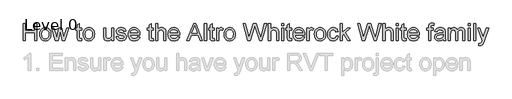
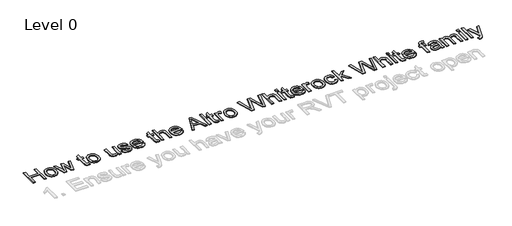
# One storey, part 4 of 6: 1 proxy.
"""IFC4 building model written with IfcOpenShell, lengths in millimetres."""

from ifc_helpers import new_model, si_unit, origin, origin_with_axes, place, context, project, spatial, polyline, outline, extrude, element, save

model = new_model("IFC4")

# Units and contexts
model_context = context("Model", 3, world=origin())
ifc_project = project(units=[si_unit("LENGTHUNIT", "METRE", prefix="MILLI")], contexts=[model_context])

# Site, building, storey
site = spatial("IfcSite", under=ifc_project)
building = spatial("IfcBuilding", under=site)
storey = spatial("IfcBuildingStorey", under=building, Name="Level 0", Elevation=0.0)

# Proxy
placement = place(None, origin())
element("IfcBuildingElementProxy", 1, Name="300mm Arial", ObjectType="300mm Arial", at=placement, inside=storey, context=model_context, shape_type="SweptSolid", body=[
    extrude(outline(polyline([(-63543.1557309, 86050.3631162), (-63543.1557309, 86735.9388738), (-63457.4587612, 86735.9388738), (-63457.4587612, 86457.4237223), (-63093.24664, 86457.4237223), (-63093.24664, 86735.9388738), (-63007.5496703, 86735.9388738), (-63007.5496703, 86050.3631162), (-63093.24664, 86050.3631162), (-63093.24664, 86371.7267526), (-63457.4587612, 86371.7267526), (-63457.4587612, 86050.3631162), (-63543.1557309, 86050.3631162)])), origin_with_axes(), (0.0, 0.0, 1.0), 25.0),
    extrude(outline(polyline([(-62889.716337, 86302.0979647), (-62885.0820892, 86367.3017259), (-62871.1793459, 86423.488057), (-62848.0081072, 86470.6569579), (-62832.946802, 86490.8598721), (-62815.5683729, 86508.8084287), (-62782.9089565, 86533.1931499), (-62746.860158, 86550.610808), (-62707.4219773, 86561.0614028), (-62664.5944146, 86564.5449344), (-62617.3156726, 86560.3029762), (-62574.5665678, 86547.5771018), (-62536.3471001, 86526.367311), (-62502.6572697, 86496.6736039), (-62475.1603844, 86459.5002419), (-62455.519752, 86415.8514862), (-62443.7353725, 86365.727337), (-62439.807246, 86309.1277942), (-62441.5437813, 86263.2560642), (-62446.7533871, 86222.5520958), (-62455.4360635, 86187.0158891), (-62467.5918104, 86156.6474439), (-62483.0689426, 86130.4163463), (-62501.7157747, 86107.2921823), (-62523.5323067, 86087.2749518), (-62548.5185387, 86070.364655), (-62575.7015923, 86056.9274288), (-62604.1085896, 86047.32941), (-62633.7395303, 86041.5705987), (-62664.5944146, 86039.650995), (-62712.5635863, 86043.8772616), (-62755.7102112, 86056.5560613), (-62794.0342894, 86077.6873941), (-62827.5358209, 86107.2712601), (-62854.7397966, 86144.8055286), (-62874.1712079, 86189.7880689), (-62885.8300547, 86242.2188809), (-62889.716337, 86302.0979647)]), holes=[polyline([(-62804.0193673, 86302.2653416), (-62801.540097, 86260.6983361), (-62794.1022863, 86224.7070734), (-62781.7059351, 86194.2915534), (-62764.3510434, 86169.4517762), (-62743.2406326, 86150.1563587), (-62719.5777243, 86136.3739176), (-62693.3623182, 86128.1044529), (-62664.5944146, 86125.3479647), (-62635.9729657, 86128.1201445), (-62609.8621703, 86136.4366839), (-62586.2620282, 86150.2975829), (-62565.1725396, 86169.7028416), (-62547.8176479, 86194.7884536), (-62535.4212967, 86225.6904126), (-62527.983486, 86262.4087187), (-62525.5042157, 86304.9433719), (-62527.9991776, 86345.1922844), (-62535.484063, 86380.242052), (-62547.9588722, 86410.092675), (-62565.4236049, 86434.7441531), (-62586.5915515, 86454.0395707), (-62610.176002, 86467.8220118), (-62636.1769563, 86476.0914765), (-62664.5944146, 86478.8479647), (-62693.3623182, 86476.1019375), (-62719.5777243, 86467.863856), (-62743.2406326, 86454.1337202), (-62764.3510434, 86434.91153), (-62781.7059351, 86410.1449803), (-62794.1022863, 86379.7817656), (-62801.540097, 86343.821886), (-62804.0193673, 86302.2653416)])]), origin_with_axes(), (0.0, 0.0, 1.0), 25.0),
    extrude(outline(polyline([(-62259.8770851, 86050.3631162), (-62413.026943, 86553.8328132), (-62323.9824354, 86553.8328132), (-62237.1138275, 86260.0863643), (-62211.1704089, 86155.1410518), (-62189.9135434, 86256.2366958), (-62120.7868862, 86553.8328132), (-62018.6869809, 86553.8328132), (-61949.8950775, 86257.0735802), (-61930.9814885, 86165.5184192), (-61903.8664316, 86262.094887), (-61816.8304468, 86553.8328132), (-61727.4511854, 86553.8328132), (-61881.7726816, 86050.3631162), (-61985.378979, 86050.3631162), (-62051.1580983, 86345.6159571), (-62070.2390642, 86437.6732488), (-62155.0991495, 86050.3631162), (-62259.8770851, 86050.3631162)])), origin_with_axes(), (0.0, 0.0, 1.0), 25.0),
    extrude(outline(polyline([(-61218.6254279, 86121.8330499), (-61207.9133066, 86047.8524628), (-61241.8489719, 86041.7013619), (-61272.018657, 86039.650995), (-61313.1515287, 86043.207754), (-61343.8233445, 86053.878031), (-61365.4986523, 86070.3228108), (-61379.6419998, 86091.2030783), (-61387.4250254, 86127.0635779), (-61390.0193673, 86188.4490537), (-61390.0193673, 86468.1358435), (-61454.2920945, 86468.1358435), (-61454.2920945, 86553.8328132), (-61390.0193673, 86553.8328132), (-61390.0193673, 86676.1853226), (-61304.3223976, 86726.5657677), (-61304.3223976, 86553.8328132), (-61218.6254279, 86553.8328132), (-61218.6254279, 86468.1358435), (-61304.3223976, 86468.1358435), (-61304.3223976, 86190.9597071), (-61303.1926035, 86162.7567005), (-61299.8032214, 86146.7722071), (-61293.8822638, 86137.9221538), (-61285.1577432, 86131.1224675), (-61272.7927752, 86126.7915904), (-61255.9504752, 86125.3479647), (-61218.6254279, 86121.8330499)])), origin_with_axes(), (0.0, 0.0, 1.0), 25.0),
    extrude(outline(polyline([(-61154.3527006, 86302.0979647), (-61149.7184528, 86367.3017259), (-61135.8157096, 86423.488057), (-61112.6444708, 86470.6569579), (-61097.5831656, 86490.8598721), (-61080.2047366, 86508.8084287), (-61047.5453201, 86533.1931499), (-61011.4965216, 86550.610808), (-60972.058341, 86561.0614028), (-60929.2307782, 86564.5449344), (-60881.9520362, 86560.3029762), (-60839.2029314, 86547.5771018), (-60800.9834638, 86526.367311), (-60767.2936334, 86496.6736039), (-60739.796748, 86459.5002419), (-60720.1561156, 86415.8514862), (-60708.3717362, 86365.727337), (-60704.4436097, 86309.1277942), (-60706.180145, 86263.2560642), (-60711.3897508, 86222.5520958), (-60720.0724271, 86187.0158891), (-60732.2281741, 86156.6474439), (-60747.7053062, 86130.4163463), (-60766.3521383, 86107.2921823), (-60788.1686703, 86087.2749518), (-60813.1549023, 86070.364655), (-60840.337956, 86056.9274288), (-60868.7449532, 86047.32941), (-60898.3758939, 86041.5705987), (-60929.2307782, 86039.650995), (-60977.1999499, 86043.8772616), (-61020.3465749, 86056.5560613), (-61058.6706531, 86077.6873941), (-61092.1721845, 86107.2712601), (-61119.3761603, 86144.8055286), (-61138.8075716, 86189.7880689), (-61150.4664183, 86242.2188809), (-61154.3527006, 86302.0979647)]), holes=[polyline([(-61068.6557309, 86302.2653416), (-61066.1764606, 86260.6983361), (-61058.7386499, 86224.7070734), (-61046.3422987, 86194.2915534), (-61028.987407, 86169.4517762), (-61007.8769963, 86150.1563587), (-60984.2140879, 86136.3739176), (-60957.9986819, 86128.1044529), (-60929.2307782, 86125.3479647), (-60900.6093294, 86128.1201445), (-60874.4985339, 86136.4366839), (-60850.8983919, 86150.2975829), (-60829.8089032, 86169.7028416), (-60812.4540115, 86194.7884536), (-60800.0576603, 86225.6904126), (-60792.6198496, 86262.4087187), (-60790.1405794, 86304.9433719), (-60792.6355412, 86345.1922844), (-60800.1204267, 86380.242052), (-60812.5952358, 86410.092675), (-60830.0599686, 86434.7441531), (-60851.2279151, 86454.0395707), (-60874.8123656, 86467.8220118), (-60900.81332, 86476.0914765), (-60929.2307782, 86478.8479647), (-60957.9986819, 86476.1019375), (-60984.2140879, 86467.863856), (-61007.8769963, 86454.1337202), (-61028.987407, 86434.91153), (-61046.3422987, 86410.1449803), (-61058.7386499, 86379.7817656), (-61066.1764606, 86343.821886), (-61068.6557309, 86302.2653416)])]), origin_with_axes(), (0.0, 0.0, 1.0), 25.0),
    extrude(outline(polyline([(-60018.8678521, 86050.3631162), (-60018.8678521, 86136.8969704), (-60049.8744217, 86094.3518561), (-60085.9859866, 86063.9624888), (-60105.9561422, 86053.3262103), (-60127.2025467, 86045.7288685), (-60149.7252, 86041.1704634), (-60173.5241021, 86039.650995), (-60215.263715, 86043.9191058), (-60254.1160765, 86056.7234382), (-60286.7127266, 86075.971781), (-60309.6852053, 86099.571923), (-60325.1466459, 86128.2352161), (-60335.2101816, 86162.673012), (-60338.9761618, 86195.1441295), (-60340.2314885, 86242.3444136), (-60340.2314885, 86553.8328132), (-60254.5345188, 86553.8328132), (-60254.5345188, 86282.682245), (-60253.2373478, 86228.4521314), (-60249.3458351, 86195.3115064), (-60236.8553343, 86166.1670047), (-60215.452014, 86144.0104884), (-60186.5585777, 86130.0135956), (-60151.597729, 86125.3479647), (-60114.6283575, 86130.1182062), (-60080.0441068, 86144.4289306), (-60051.5272685, 86166.9620449), (-60032.7601343, 86196.3994562), (-60022.3409227, 86236.7163655), (-60018.8678521, 86291.8879742), (-60018.8678521, 86553.8328132), (-59933.1708824, 86553.8328132), (-59933.1708824, 86050.3631162), (-60018.8678521, 86050.3631162)])), origin_with_axes(), (0.0, 0.0, 1.0), 25.0),
    extrude(outline(polyline([(-59847.4739127, 86200.3328132), (-59761.776943, 86211.0449344), (-59756.5987204, 86191.503682), (-59748.2612588, 86174.3893946), (-59736.7645584, 86159.7020722), (-59722.1086191, 86147.4417147), (-59704.2515968, 86137.7756991), (-59683.1516471, 86130.8714022), (-59631.2229657, 86125.3479647), (-59579.9219477, 86130.4111157), (-59559.9831753, 86136.7400545), (-59543.8522271, 86145.6005689), (-59522.5116731, 86167.6106304), (-59517.1765346, 86179.9337542), (-59515.3981551, 86193.1356067), (-59517.1869957, 86204.7055345), (-59522.5535173, 86214.9782914), (-59531.4977201, 86223.9538773), (-59544.019604, 86231.6322923), (-59576.1141234, 86242.5117904), (-59632.2272271, 86256.0693189), (-59710.4340808, 86278.6861217), (-59761.2748123, 86297.9972308), (-59793.9342288, 86319.0657973), (-59817.5971371, 86346.9549723), (-59831.9706279, 86379.8863762), (-59836.7617915, 86416.0816295), (-59832.9121229, 86449.2850208), (-59821.3631173, 86479.9359145), (-59803.16088, 86506.8208281), (-59779.3515169, 86528.7262791), (-59755.6886085, 86542.5139507), (-59724.8703379, 86554.0838785), (-59689.2399816, 86561.9296704), (-59651.1408161, 86564.5449344), (-59595.3624662, 86560.3395899), (-59546.8650112, 86547.7235565), (-59507.8661949, 86527.9312388), (-59480.5837612, 86502.1970414), (-59462.5070566, 86468.617052), (-59451.1254279, 86425.2873586), (-59536.8223976, 86414.5752374), (-59547.6391293, 86441.5438395), (-59569.0424496, 86461.85921), (-59601.2415796, 86474.600776), (-59644.4457404, 86478.8479647), (-59693.6545472, 86474.789075), (-59712.1078497, 86469.7154629), (-59726.4604184, 86462.612406), (-59744.9137209, 86445.0378321), (-59751.0648218, 86424.7852279), (-59748.5123242, 86411.6042976), (-59740.8548313, 86399.8460708), (-59727.7575893, 86389.3431707), (-59708.8858445, 86380.9324817), (-59635.0726343, 86362.6884003), (-59559.3555119, 86340.3017407), (-59509.2888985, 86322.3505689), (-59476.0645851, 86303.0603818), (-59450.8743625, 86276.6566768), (-59434.9944797, 86243.0557654), (-59429.7011854, 86202.173959), (-59435.9150526, 86159.9112933), (-59454.5566542, 86120.159281), (-59468.3600174, 86102.0041185), (-59484.9146383, 86086.0353167), (-59504.2205169, 86072.2528756), (-59526.2776532, 86060.6567952), (-59576.2396561, 86044.902445), (-59632.394604, 86039.650995), (-59678.5173993, 86042.1825705), (-59718.8029255, 86049.7772971), (-59753.2511825, 86062.4351747), (-59781.8621703, 86080.1562033), (-59805.2321691, 86102.8566946), (-59823.9574591, 86130.45296), (-59838.0380403, 86162.9449995), (-59847.4739127, 86200.3328132)])), origin_with_axes(), (0.0, 0.0, 1.0), 25.0),
    extrude(outline(polyline([(-58980.7963559, 86200.3328132), (-58896.7731551, 86189.620692), (-58909.6559454, 86155.9674752), (-58927.0474508, 86126.3103818), (-58948.9476713, 86100.6494118), (-58975.3566068, 86078.9845651), (-59006.00227, 86061.7761282), (-59040.6126734, 86049.4843875), (-59079.1878169, 86042.1093431), (-59121.7277006, 86039.650995), (-59174.9012476, 86043.8929532), (-59222.2793696, 86056.6188276), (-59263.8620667, 86077.8286184), (-59299.6493388, 86107.5223255), (-59328.4277035, 86144.8735255), (-59348.9836783, 86189.0557949), (-59361.3172632, 86240.0691339), (-59365.4284582, 86297.9135423), (-59361.275419, 86357.7193988), (-59348.8163014, 86410.4326593), (-59328.0511055, 86456.0533239), (-59298.9798313, 86494.5813927), (-59263.2867086, 86525.1904422), (-59222.6559676, 86547.054049), (-59177.0876083, 86560.172213), (-59126.5816305, 86564.5449344), (-59077.702347, 86560.1826741), (-59033.4991554, 86547.0958932), (-58993.9720558, 86525.2845917), (-58959.1210481, 86494.7487696), (-58930.6722067, 86456.3043893), (-58910.3516057, 86410.7674131), (-58898.159245, 86358.137841), (-58894.0951248, 86298.415673), (-58894.5972555, 86275.3176617), (-59279.7314885, 86275.3176617), (-59274.7677175, 86241.12047), (-59264.8977112, 86211.1704671), (-59250.1214698, 86185.4676528), (-59230.4389932, 86164.0120272), (-59206.9382312, 86147.0964998), (-59180.7071336, 86135.0139803), (-59151.7457004, 86127.7644686), (-59120.0539316, 86125.3479647), (-59074.443728, 86129.8252966), (-59036.0307309, 86143.2572923), (-59019.5231847, 86153.5405103), (-59004.8149402, 86166.4808364), (-58980.7963559, 86200.3328132)]), holes=[polyline([(-59279.7314885, 86361.0146314), (-58979.7920945, 86361.0146314), (-58984.196199, 86385.2633589), (-58991.3829444, 86406.2900812), (-59001.3523307, 86424.0947983), (-59014.1043578, 86438.6775101), (-59037.4743566, 86456.252084), (-59064.0663606, 86468.8053511), (-59093.8803699, 86476.3373113), (-59126.9163843, 86478.8479647), (-59157.0494557, 86476.8446725), (-59184.6823348, 86470.8347959), (-59209.8150216, 86460.8183349), (-59232.4475159, 86446.7952895), (-59251.4395629, 86429.4142452), (-59265.6509073, 86409.3237874), (-59275.0815491, 86386.5239161), (-59279.7314885, 86361.0146314)])]), origin_with_axes(), (0.0, 0.0, 1.0), 25.0),
    extrude(outline(polyline([(-58358.4890642, 86121.8330499), (-58347.776943, 86047.8524628), (-58381.7126083, 86041.7013619), (-58411.8822934, 86039.650995), (-58453.0151651, 86043.207754), (-58483.6869809, 86053.878031), (-58505.3622887, 86070.3228108), (-58519.5056362, 86091.2030783), (-58527.2886618, 86127.0635779), (-58529.8830036, 86188.4490537), (-58529.8830036, 86468.1358435), (-58594.1557309, 86468.1358435), (-58594.1557309, 86553.8328132), (-58529.8830036, 86553.8328132), (-58529.8830036, 86676.1853226), (-58444.1860339, 86726.5657677), (-58444.1860339, 86553.8328132), (-58358.4890642, 86553.8328132), (-58358.4890642, 86468.1358435), (-58444.1860339, 86468.1358435), (-58444.1860339, 86190.9597071), (-58443.0562399, 86162.7567005), (-58439.6668578, 86146.7722071), (-58433.7459002, 86137.9221538), (-58425.0213796, 86131.1224675), (-58412.6564115, 86126.7915904), (-58395.8141116, 86125.3479647), (-58358.4890642, 86121.8330499)])), origin_with_axes(), (0.0, 0.0, 1.0), 25.0),
    extrude(outline(polyline([(-58272.7920945, 86050.3631162), (-58272.7920945, 86735.9388738), (-58187.0951248, 86735.9388738), (-58187.0951248, 86483.8692715), (-58155.6178077, 86519.164874), (-58120.2698999, 86544.3760187), (-58081.0514015, 86559.5027055), (-58037.9623123, 86564.5449344), (-57986.2010079, 86559.042419), (-57963.0506912, 86552.1642748), (-57941.7205983, 86542.5348728), (-57922.754704, 86530.4785059), (-57906.6969833, 86516.3194668), (-57893.547436, 86500.0577555), (-57883.3060623, 86481.6933719), (-57875.6171863, 86460.0912915), (-57870.1251319, 86434.1164898), (-57865.7314885, 86369.0487223), (-57865.7314885, 86050.3631162), (-57951.4284582, 86050.3631162), (-57951.4284582, 86360.1777469), (-57953.1336103, 86389.1130274), (-57958.2490666, 86413.8220414), (-57966.7748271, 86434.3047888), (-57978.7108919, 86450.5612696), (-57993.7748123, 86462.9366987), (-58011.68414, 86471.7762909), (-58032.4388748, 86477.0800462), (-58056.0390169, 86478.8479647), (-58092.2551923, 86474.0777232), (-58126.2536239, 86459.7669988), (-58154.4147863, 86437.2966508), (-58173.1191542, 86408.0475386), (-58183.6011322, 86369.1742549), (-58187.0951248, 86317.8313927), (-58187.0951248, 86050.3631162), (-58272.7920945, 86050.3631162)])), origin_with_axes(), (0.0, 0.0, 1.0), 25.0),
    extrude(outline(polyline([(-57395.4024165, 86200.3328132), (-57311.3792157, 86189.620692), (-57324.262006, 86155.9674752), (-57341.6535114, 86126.3103818), (-57363.5537319, 86100.6494118), (-57389.9626674, 86078.9845651), (-57420.6083306, 86061.7761282), (-57455.218734, 86049.4843875), (-57493.7938775, 86042.1093431), (-57536.3337612, 86039.650995), (-57589.5073082, 86043.8929532), (-57636.8854302, 86056.6188276), (-57678.4681273, 86077.8286184), (-57714.2553995, 86107.5223255), (-57743.0337642, 86144.8735255), (-57763.5897389, 86189.0557949), (-57775.9233238, 86240.0691339), (-57780.0345188, 86297.9135423), (-57775.8814796, 86357.7193988), (-57763.422362, 86410.4326593), (-57742.6571661, 86456.0533239), (-57713.5858919, 86494.5813927), (-57677.8927692, 86525.1904422), (-57637.2620282, 86547.054049), (-57591.6936689, 86560.172213), (-57541.1876911, 86564.5449344), (-57492.3084076, 86560.1826741), (-57448.105216, 86547.0958932), (-57408.5781164, 86525.2845917), (-57373.7271087, 86494.7487696), (-57345.2782673, 86456.3043893), (-57324.9576663, 86410.7674131), (-57312.7653056, 86358.137841), (-57308.7011854, 86298.415673), (-57309.2033161, 86275.3176617), (-57694.3375491, 86275.3176617), (-57689.3737781, 86241.12047), (-57679.5037718, 86211.1704671), (-57664.7275304, 86185.4676528), (-57645.0450538, 86164.0120272), (-57621.5442918, 86147.0964998), (-57595.3131942, 86135.0139803), (-57566.351761, 86127.7644686), (-57534.6599923, 86125.3479647), (-57489.0497887, 86129.8252966), (-57450.6367915, 86143.2572923), (-57434.1292453, 86153.5405103), (-57419.4210008, 86166.4808364), (-57395.4024165, 86200.3328132)]), holes=[polyline([(-57694.3375491, 86361.0146314), (-57394.3981551, 86361.0146314), (-57398.8022597, 86385.2633589), (-57405.989005, 86406.2900812), (-57415.9583913, 86424.0947983), (-57428.7104184, 86438.6775101), (-57452.0804172, 86456.252084), (-57478.6724212, 86468.8053511), (-57508.4864305, 86476.3373113), (-57541.5224449, 86478.8479647), (-57571.6555163, 86476.8446725), (-57599.2883954, 86470.8347959), (-57624.4210822, 86460.8183349), (-57647.0535765, 86446.7952895), (-57666.0456235, 86429.4142452), (-57680.2569679, 86409.3237874), (-57689.6876097, 86386.5239161), (-57694.3375491, 86361.0146314)])]), origin_with_axes(), (0.0, 0.0, 1.0), 25.0),
    extrude(outline(polyline([(-57024.3278426, 86050.3631162), (-56750.666621, 86735.9388738), (-56677.6902953, 86735.9388738), (-56404.0290737, 86050.3631162), (-56494.5799733, 86050.3631162), (-56573.0797366, 86264.6055404), (-56855.4445566, 86264.6055404), (-56933.776943, 86050.3631162), (-57024.3278426, 86050.3631162)]), holes=[polyline([(-56823.9777006, 86350.3025101), (-56604.3792157, 86350.3025101), (-56666.1412896, 86518.8510423), (-56714.1784582, 86650.2419041), (-56756.8595661, 86533.580209), (-56823.9777006, 86350.3025101)])]), origin_with_axes(), (0.0, 0.0, 1.0), 25.0),
    extrude(outline(polyline([(-56323.1860339, 86050.3631162), (-56323.1860339, 86735.9388738), (-56237.4890642, 86735.9388738), (-56237.4890642, 86050.3631162), (-56323.1860339, 86050.3631162)])), origin_with_axes(), (0.0, 0.0, 1.0), 25.0),
    extrude(outline(polyline([(-55926.8375491, 86121.8330499), (-55916.1254279, 86047.8524628), (-55950.0610931, 86041.7013619), (-55980.2307782, 86039.650995), (-56021.3636499, 86043.207754), (-56052.0354657, 86053.878031), (-56073.7107735, 86070.3228108), (-56087.854121, 86091.2030783), (-56095.6371466, 86127.0635779), (-56098.2314885, 86188.4490537), (-56098.2314885, 86468.1358435), (-56162.5042157, 86468.1358435), (-56162.5042157, 86553.8328132), (-56098.2314885, 86553.8328132), (-56098.2314885, 86676.1853226), (-56012.5345188, 86726.5657677), (-56012.5345188, 86553.8328132), (-55926.8375491, 86553.8328132), (-55926.8375491, 86468.1358435), (-56012.5345188, 86468.1358435), (-56012.5345188, 86190.9597071), (-56011.4047247, 86162.7567005), (-56008.0153426, 86146.7722071), (-56002.094385, 86137.9221538), (-55993.3698644, 86131.1224675), (-55981.0048964, 86126.7915904), (-55964.1625964, 86125.3479647), (-55926.8375491, 86121.8330499)])), origin_with_axes(), (0.0, 0.0, 1.0), 25.0),
    extrude(outline(polyline([(-55841.1405794, 86050.3631162), (-55841.1405794, 86553.8328132), (-55766.1557309, 86553.8328132), (-55766.1557309, 86479.3500954), (-55738.4548549, 86522.533334), (-55712.9298786, 86547.9746219), (-55687.3212138, 86560.4023563), (-55659.3692726, 86564.5449344), (-55638.112407, 86562.8920876), (-55616.6881646, 86557.9335471), (-55573.3375491, 86538.0993851), (-55601.9589979, 86461.2733908), (-55632.0868388, 86474.4543212), (-55662.2146798, 86478.8479647), (-55687.8024224, 86474.6216981), (-55710.6702905, 86461.9428984), (-55729.1445152, 86441.7739827), (-55741.5513275, 86415.0773681), (-55751.9705391, 86367.2075764), (-55755.4436097, 86314.9859855), (-55755.4436097, 86050.3631162), (-55841.1405794, 86050.3631162)])), origin_with_axes(), (0.0, 0.0, 1.0), 25.0),
    extrude(outline(polyline([(-55541.2011854, 86302.0979647), (-55536.5669377, 86367.3017259), (-55522.6641944, 86423.488057), (-55499.4929557, 86470.6569579), (-55484.4316505, 86490.8598721), (-55467.0532214, 86508.8084287), (-55434.393805, 86533.1931499), (-55398.3450065, 86550.610808), (-55358.9068258, 86561.0614028), (-55316.0792631, 86564.5449344), (-55268.8005211, 86560.3029762), (-55226.0514163, 86547.5771018), (-55187.8319486, 86526.367311), (-55154.1421182, 86496.6736039), (-55126.6452328, 86459.5002419), (-55107.0046004, 86415.8514862), (-55095.220221, 86365.727337), (-55091.2920945, 86309.1277942), (-55093.0286298, 86263.2560642), (-55098.2382356, 86222.5520958), (-55106.920912, 86187.0158891), (-55119.0766589, 86156.6474439), (-55134.5537911, 86130.4163463), (-55153.2006232, 86107.2921823), (-55175.0171552, 86087.2749518), (-55200.0033871, 86070.364655), (-55227.1864408, 86056.9274288), (-55255.593438, 86047.32941), (-55285.2243788, 86041.5705987), (-55316.0792631, 86039.650995), (-55364.0484348, 86043.8772616), (-55407.1950597, 86056.5560613), (-55445.5191379, 86077.6873941), (-55479.0206693, 86107.2712601), (-55506.2246451, 86144.8055286), (-55525.6560564, 86189.7880689), (-55537.3149032, 86242.2188809), (-55541.2011854, 86302.0979647)]), holes=[polyline([(-55455.5042157, 86302.2653416), (-55453.0249455, 86260.6983361), (-55445.5871348, 86224.7070734), (-55433.1907836, 86194.2915534), (-55415.8358919, 86169.4517762), (-55394.7254811, 86150.1563587), (-55371.0625727, 86136.3739176), (-55344.8471667, 86128.1044529), (-55316.0792631, 86125.3479647), (-55287.4578142, 86128.1201445), (-55261.3470188, 86136.4366839), (-55237.7468767, 86150.2975829), (-55216.6573881, 86169.7028416), (-55199.3024964, 86194.7884536), (-55186.9061452, 86225.6904126), (-55179.4683345, 86262.4087187), (-55176.9890642, 86304.9433719), (-55179.484026, 86345.1922844), (-55186.9689115, 86380.242052), (-55199.4437207, 86410.092675), (-55216.9084534, 86434.7441531), (-55238.0764, 86454.0395707), (-55261.6608504, 86467.8220118), (-55287.6618048, 86476.0914765), (-55316.0792631, 86478.8479647), (-55344.8471667, 86476.1019375), (-55371.0625727, 86467.863856), (-55394.7254811, 86454.1337202), (-55415.8358919, 86434.91153), (-55433.1907836, 86410.1449803), (-55445.5871348, 86379.7817656), (-55453.0249455, 86343.821886), (-55455.5042157, 86302.2653416)])]), origin_with_axes(), (0.0, 0.0, 1.0), 25.0),
    extrude(outline(polyline([(-54593.6805888, 86050.3631162), (-54780.6405794, 86735.9388738), (-54692.2655794, 86735.9388738), (-54583.8053521, 86285.3602753), (-54550.3299733, 86146.2700764), (-54514.511318, 86269.2920935), (-54378.6012801, 86735.9388738), (-54251.2274638, 86735.9388738), (-54152.4750964, 86397.6701711), (-54110.1705865, 86272.1375007), (-54078.99664, 86146.2700764), (-54046.5255226, 86281.3432298), (-53937.0610339, 86735.9388738), (-53848.6860339, 86735.9388738), (-54035.8134013, 86050.3631162), (-54127.3685623, 86050.3631162), (-54291.7326722, 86579.2741011), (-54314.6633066, 86653.0873113), (-54340.4393483, 86564.2101806), (-54490.2416684, 86050.3631162), (-54593.6805888, 86050.3631162)])), origin_with_axes(), (0.0, 0.0, 1.0), 25.0),
    extrude(outline(polyline([(-53773.7011854, 86050.3631162), (-53773.7011854, 86735.9388738), (-53688.0042157, 86735.9388738), (-53688.0042157, 86483.8692715), (-53656.5268986, 86519.164874), (-53621.1789908, 86544.3760187), (-53581.9604924, 86559.5027055), (-53538.8714032, 86564.5449344), (-53487.1100988, 86559.042419), (-53463.9597821, 86552.1642748), (-53442.6296892, 86542.5348728), (-53423.6637949, 86530.4785059), (-53407.6060742, 86516.3194668), (-53394.4565269, 86500.0577555), (-53384.2151532, 86481.6933719), (-53376.5262772, 86460.0912915), (-53371.0342228, 86434.1164898), (-53366.6405794, 86369.0487223), (-53366.6405794, 86050.3631162), (-53452.3375491, 86050.3631162), (-53452.3375491, 86360.1777469), (-53454.0427012, 86389.1130274), (-53459.1581575, 86413.8220414), (-53467.683918, 86434.3047888), (-53479.6199828, 86450.5612696), (-53494.6839032, 86462.9366987), (-53512.5932309, 86471.7762909), (-53533.3479657, 86477.0800462), (-53556.9481078, 86478.8479647), (-53593.1642832, 86474.0777232), (-53627.1627148, 86459.7669988), (-53655.3238772, 86437.2966508), (-53674.0282451, 86408.0475386), (-53684.5102231, 86369.1742549), (-53688.0042157, 86317.8313927), (-53688.0042157, 86050.3631162), (-53773.7011854, 86050.3631162)])), origin_with_axes(), (0.0, 0.0, 1.0), 25.0),
    extrude(outline(polyline([(-53248.807246, 86050.3631162), (-53248.807246, 86553.8328132), (-53163.1102763, 86553.8328132), (-53163.1102763, 86050.3631162), (-53248.807246, 86050.3631162)])), origin_with_axes(), (0.0, 0.0, 1.0), 25.0),
    extrude(outline(polyline([(-53248.807246, 86650.2419041), (-53248.807246, 86735.9388738), (-53163.1102763, 86735.9388738), (-53163.1102763, 86650.2419041), (-53248.807246, 86650.2419041)])), origin_with_axes(), (0.0, 0.0, 1.0), 25.0),
    extrude(outline(polyline([(-52852.4587612, 86121.8330499), (-52841.74664, 86047.8524628), (-52875.6823052, 86041.7013619), (-52905.8519904, 86039.650995), (-52946.984862, 86043.207754), (-52977.6566779, 86053.878031), (-52999.3319856, 86070.3228108), (-53013.4753332, 86091.2030783), (-53021.2583587, 86127.0635779), (-53023.8527006, 86188.4490537), (-53023.8527006, 86468.1358435), (-53088.1254279, 86468.1358435), (-53088.1254279, 86553.8328132), (-53023.8527006, 86553.8328132), (-53023.8527006, 86676.1853226), (-52938.1557309, 86726.5657677), (-52938.1557309, 86553.8328132), (-52852.4587612, 86553.8328132), (-52852.4587612, 86468.1358435), (-52938.1557309, 86468.1358435), (-52938.1557309, 86190.9597071), (-52937.0259369, 86162.7567005), (-52933.6365548, 86146.7722071), (-52927.7155971, 86137.9221538), (-52918.9910765, 86131.1224675), (-52906.6261085, 86126.7915904), (-52889.7838085, 86125.3479647), (-52852.4587612, 86121.8330499)])), origin_with_axes(), (0.0, 0.0, 1.0), 25.0),
    extrude(outline(polyline([(-52414.2660529, 86200.3328132), (-52330.2428521, 86189.620692), (-52343.1256424, 86155.9674752), (-52360.5171478, 86126.3103818), (-52382.4173683, 86100.6494118), (-52408.8263038, 86078.9845651), (-52439.471967, 86061.7761282), (-52474.0823703, 86049.4843875), (-52512.6575139, 86042.1093431), (-52555.1973976, 86039.650995), (-52608.3709446, 86043.8929532), (-52655.7490666, 86056.6188276), (-52697.3317637, 86077.8286184), (-52733.1190358, 86107.5223255), (-52761.8974005, 86144.8735255), (-52782.4533753, 86189.0557949), (-52794.7869602, 86240.0691339), (-52798.8981551, 86297.9135423), (-52794.745116, 86357.7193988), (-52782.2859984, 86410.4326593), (-52761.5208025, 86456.0533239), (-52732.4495282, 86494.5813927), (-52696.7564056, 86525.1904422), (-52656.1256646, 86547.054049), (-52610.5573052, 86560.172213), (-52560.0513275, 86564.5449344), (-52511.1720439, 86560.1826741), (-52466.9688523, 86547.0958932), (-52427.4417527, 86525.2845917), (-52392.5907451, 86494.7487696), (-52364.1419037, 86456.3043893), (-52343.8213026, 86410.7674131), (-52331.628942, 86358.137841), (-52327.5648218, 86298.415673), (-52328.0669525, 86275.3176617), (-52713.2011854, 86275.3176617), (-52708.2374144, 86241.12047), (-52698.3674082, 86211.1704671), (-52683.5911668, 86185.4676528), (-52663.9086902, 86164.0120272), (-52640.4079282, 86147.0964998), (-52614.1768306, 86135.0139803), (-52585.2153974, 86127.7644686), (-52553.5236286, 86125.3479647), (-52507.913425, 86129.8252966), (-52469.5004279, 86143.2572923), (-52452.9928817, 86153.5405103), (-52438.2846371, 86166.4808364), (-52414.2660529, 86200.3328132)]), holes=[polyline([(-52713.2011854, 86361.0146314), (-52413.2617915, 86361.0146314), (-52417.665896, 86385.2633589), (-52424.8526414, 86406.2900812), (-52434.8220276, 86424.0947983), (-52447.5740548, 86438.6775101), (-52470.9440536, 86456.252084), (-52497.5360576, 86468.8053511), (-52527.3500668, 86476.3373113), (-52560.3860813, 86478.8479647), (-52590.5191527, 86476.8446725), (-52618.1520318, 86470.8347959), (-52643.2847185, 86460.8183349), (-52665.9172129, 86446.7952895), (-52684.9092598, 86429.4142452), (-52699.1206042, 86409.3237874), (-52708.5512461, 86386.5239161), (-52713.2011854, 86361.0146314)])]), origin_with_axes(), (0.0, 0.0, 1.0), 25.0),
    extrude(outline(polyline([(-52241.8678521, 86050.3631162), (-52241.8678521, 86553.8328132), (-52166.8830036, 86553.8328132), (-52166.8830036, 86479.3500954), (-52139.1821277, 86522.533334), (-52113.6571513, 86547.9746219), (-52088.0484866, 86560.4023563), (-52060.0965453, 86564.5449344), (-52038.8396798, 86562.8920876), (-52017.4154373, 86557.9335471), (-51974.0648218, 86538.0993851), (-52002.6862707, 86461.2733908), (-52032.8141116, 86474.4543212), (-52062.9419525, 86478.8479647), (-52088.5296951, 86474.6216981), (-52111.3975633, 86461.9428984), (-52129.8717879, 86441.7739827), (-52142.2786002, 86415.0773681), (-52152.6978119, 86367.2075764), (-52156.1708824, 86314.9859855), (-52156.1708824, 86050.3631162), (-52241.8678521, 86050.3631162)])), origin_with_axes(), (0.0, 0.0, 1.0), 25.0),
    extrude(outline(polyline([(-51941.9284582, 86302.0979647), (-51937.2942104, 86367.3017259), (-51923.3914672, 86423.488057), (-51900.2202284, 86470.6569579), (-51885.1589232, 86490.8598721), (-51867.7804941, 86508.8084287), (-51835.1210777, 86533.1931499), (-51799.0722792, 86550.610808), (-51759.6340986, 86561.0614028), (-51716.8065358, 86564.5449344), (-51669.5277938, 86560.3029762), (-51626.778689, 86547.5771018), (-51588.5592214, 86526.367311), (-51554.8693909, 86496.6736039), (-51527.3725056, 86459.5002419), (-51507.7318732, 86415.8514862), (-51495.9474937, 86365.727337), (-51492.0193673, 86309.1277942), (-51493.7559025, 86263.2560642), (-51498.9655084, 86222.5520958), (-51507.6481847, 86187.0158891), (-51519.8039316, 86156.6474439), (-51535.2810638, 86130.4163463), (-51553.9278959, 86107.2921823), (-51575.7444279, 86087.2749518), (-51600.7306599, 86070.364655), (-51627.9137135, 86056.9274288), (-51656.3207108, 86047.32941), (-51685.9516515, 86041.5705987), (-51716.8065358, 86039.650995), (-51764.7757075, 86043.8772616), (-51807.9223325, 86056.5560613), (-51846.2464106, 86077.6873941), (-51879.7479421, 86107.2712601), (-51906.9519179, 86144.8055286), (-51926.3833291, 86189.7880689), (-51938.0421759, 86242.2188809), (-51941.9284582, 86302.0979647)]), holes=[polyline([(-51856.2314885, 86302.2653416), (-51853.7522182, 86260.6983361), (-51846.3144075, 86224.7070734), (-51833.9180563, 86194.2915534), (-51816.5631646, 86169.4517762), (-51795.4527539, 86150.1563587), (-51771.7898455, 86136.3739176), (-51745.5744395, 86128.1044529), (-51716.8065358, 86125.3479647), (-51688.185087, 86128.1201445), (-51662.0742915, 86136.4366839), (-51638.4741495, 86150.2975829), (-51617.3846608, 86169.7028416), (-51600.0297691, 86194.7884536), (-51587.6334179, 86225.6904126), (-51580.1956072, 86262.4087187), (-51577.716337, 86304.9433719), (-51580.2112988, 86345.1922844), (-51587.6961843, 86380.242052), (-51600.1709934, 86410.092675), (-51617.6357262, 86434.7441531), (-51638.8036727, 86454.0395707), (-51662.3881232, 86467.8220118), (-51688.3890775, 86476.0914765), (-51716.8065358, 86478.8479647), (-51745.5744395, 86476.1019375), (-51771.7898455, 86467.863856), (-51795.4527539, 86454.1337202), (-51816.5631646, 86434.91153), (-51833.9180563, 86410.1449803), (-51846.3144075, 86379.7817656), (-51853.7522182, 86343.821886), (-51856.2314885, 86302.2653416)])]), origin_with_axes(), (0.0, 0.0, 1.0), 25.0),
    extrude(outline(polyline([(-51074.24664, 86232.4691768), (-50988.5496703, 86221.7570556), (-50997.8704711, 86181.3198441), (-51012.4427219, 86145.5378025), (-51032.2664228, 86114.4109308), (-51057.3415737, 86087.9392289), (-51086.611608, 86066.8131266), (-51119.0199591, 86051.7230535), (-51154.566627, 86042.6690096), (-51193.2516116, 86039.650995), (-51241.3149328, 86043.86157), (-51284.4092524, 86056.4932949), (-51322.5345706, 86077.5461699), (-51355.6908871, 86107.0201948), (-51382.528726, 86144.3609337), (-51401.6986109, 86189.0139507), (-51413.2005418, 86240.9792458), (-51417.0345188, 86300.2568189), (-51415.3973635, 86339.6583858), (-51410.4858978, 86376.5179162), (-51402.3001216, 86410.8354099), (-51390.8400349, 86442.6108672), (-51376.0271798, 86471.2061634), (-51357.7830983, 86495.9831742), (-51336.1077905, 86516.9418996), (-51311.0012565, 86534.0823397), (-51283.5985206, 86547.4097249), (-51255.0346075, 86556.9292857), (-51225.3095173, 86562.6410222), (-51194.4232498, 86564.5449344), (-51156.4025423, 86561.9296704), (-51122.0118211, 86554.0838785), (-51091.2510863, 86541.0075587), (-51064.1203379, 86522.7007109), (-51041.0798623, 86499.5817774), (-51022.5899461, 86472.0692005), (-51008.6505891, 86440.1629801), (-50999.2617915, 86403.8631162), (-51084.9587612, 86393.150995), (-51100.5038902, 86430.5388087), (-51111.5246126, 86445.2627448), (-51124.7107735, 86457.3400338), (-51156.2403959, 86473.470982), (-51193.7537423, 86478.8479647), (-51222.8720913, 86476.2013176), (-51249.134572, 86468.2613762), (-51272.5411845, 86455.0281405), (-51293.0919288, 86436.5016105), (-51309.8243877, 86412.252883), (-51321.776144, 86381.8530547), (-51328.9471978, 86345.3021254), (-51331.3375491, 86302.6000954), (-51328.9995031, 86259.2547104), (-51321.9853651, 86222.2801084), (-51310.2951352, 86191.6762894), (-51293.9288133, 86167.4432535), (-51273.7860502, 86149.0265647), (-51250.7664968, 86135.8717869), (-51224.8701529, 86127.9789202), (-51196.0970188, 86125.3479647), (-51172.9100884, 86126.9903505), (-51151.7212198, 86131.9175078), (-51132.5304128, 86140.1294366), (-51115.3376674, 86151.626137), (-51100.6241924, 86166.5331417), (-51088.8711961, 86184.9759832), (-51080.0786786, 86206.9546615), (-51074.24664, 86232.4691768)])), origin_with_axes(), (0.0, 0.0, 1.0), 25.0),
    extrude(outline(polyline([(-50913.5648218, 86050.3631162), (-50913.5648218, 86735.9388738), (-50827.8678521, 86735.9388738), (-50827.8678521, 86367.5423302), (-50635.7191779, 86553.8328132), (-50517.216337, 86553.8328132), (-50711.7082877, 86365.1990537), (-50506.5042157, 86050.3631162), (-50606.5955983, 86050.3631162), (-50773.1356078, 86305.6128795), (-50827.8678521, 86252.5544041), (-50827.8678521, 86050.3631162), (-50913.5648218, 86050.3631162)])), origin_with_axes(), (0.0, 0.0, 1.0), 25.0),
    extrude(outline(polyline([(-50030.3169525, 86050.3631162), (-50217.276943, 86735.9388738), (-50128.901943, 86735.9388738), (-50020.4417157, 86285.3602753), (-49986.966337, 86146.2700764), (-49951.1476816, 86269.2920935), (-49815.2376438, 86735.9388738), (-49687.8638275, 86735.9388738), (-49589.1114601, 86397.6701711), (-49546.8069501, 86272.1375007), (-49515.6330036, 86146.2700764), (-49483.1618862, 86281.3432298), (-49373.6973976, 86735.9388738), (-49285.3223976, 86735.9388738), (-49472.449765, 86050.3631162), (-49564.004926, 86050.3631162), (-49728.3690358, 86579.2741011), (-49751.2996703, 86653.0873113), (-49777.075712, 86564.2101806), (-49926.878032, 86050.3631162), (-50030.3169525, 86050.3631162)])), origin_with_axes(), (0.0, 0.0, 1.0), 25.0),
    extrude(outline(polyline([(-49210.3375491, 86050.3631162), (-49210.3375491, 86735.9388738), (-49124.6405794, 86735.9388738), (-49124.6405794, 86483.8692715), (-49093.1632623, 86519.164874), (-49057.8153545, 86544.3760187), (-49018.596856, 86559.5027055), (-48975.5077669, 86564.5449344), (-48923.7464624, 86559.042419), (-48900.5961458, 86552.1642748), (-48879.2660529, 86542.5348728), (-48860.3001586, 86530.4785059), (-48844.2424378, 86516.3194668), (-48831.0928906, 86500.0577555), (-48820.8515169, 86481.6933719), (-48813.1626408, 86460.0912915), (-48807.6705865, 86434.1164898), (-48803.276943, 86369.0487223), (-48803.276943, 86050.3631162), (-48888.9739127, 86050.3631162), (-48888.9739127, 86360.1777469), (-48890.6790648, 86389.1130274), (-48895.7945211, 86413.8220414), (-48904.3202817, 86434.3047888), (-48916.2563464, 86450.5612696), (-48931.3202669, 86462.9366987), (-48949.2295945, 86471.7762909), (-48969.9843294, 86477.0800462), (-48993.5844714, 86478.8479647), (-49029.8006468, 86474.0777232), (-49063.7990784, 86459.7669988), (-49091.9602408, 86437.2966508), (-49110.6646087, 86408.0475386), (-49121.1465867, 86369.1742549), (-49124.6405794, 86317.8313927), (-49124.6405794, 86050.3631162), (-49210.3375491, 86050.3631162)])), origin_with_axes(), (0.0, 0.0, 1.0), 25.0),
    extrude(outline(polyline([(-48685.4436097, 86050.3631162), (-48685.4436097, 86553.8328132), (-48599.74664, 86553.8328132), (-48599.74664, 86050.3631162), (-48685.4436097, 86050.3631162)])), origin_with_axes(), (0.0, 0.0, 1.0), 25.0),
    extrude(outline(polyline([(-48685.4436097, 86650.2419041), (-48685.4436097, 86735.9388738), (-48599.74664, 86735.9388738), (-48599.74664, 86650.2419041), (-48685.4436097, 86650.2419041)])), origin_with_axes(), (0.0, 0.0, 1.0), 25.0),
    extrude(outline(polyline([(-48289.0951248, 86121.8330499), (-48278.3830036, 86047.8524628), (-48312.3186689, 86041.7013619), (-48342.488354, 86039.650995), (-48383.6212257, 86043.207754), (-48414.2930415, 86053.878031), (-48435.9683493, 86070.3228108), (-48450.1116968, 86091.2030783), (-48457.8947224, 86127.0635779), (-48460.4890642, 86188.4490537), (-48460.4890642, 86468.1358435), (-48524.7617915, 86468.1358435), (-48524.7617915, 86553.8328132), (-48460.4890642, 86553.8328132), (-48460.4890642, 86676.1853226), (-48374.7920945, 86726.5657677), (-48374.7920945, 86553.8328132), (-48289.0951248, 86553.8328132), (-48289.0951248, 86468.1358435), (-48374.7920945, 86468.1358435), (-48374.7920945, 86190.9597071), (-48373.6623005, 86162.7567005), (-48370.2729184, 86146.7722071), (-48364.3519608, 86137.9221538), (-48355.6274402, 86131.1224675), (-48343.2624721, 86126.7915904), (-48326.4201722, 86125.3479647), (-48289.0951248, 86121.8330499)])), origin_with_axes(), (0.0, 0.0, 1.0), 25.0),
    extrude(outline(polyline([(-47850.9024165, 86200.3328132), (-47766.8792157, 86189.620692), (-47779.762006, 86155.9674752), (-47797.1535114, 86126.3103818), (-47819.0537319, 86100.6494118), (-47845.4626674, 86078.9845651), (-47876.1083306, 86061.7761282), (-47910.718734, 86049.4843875), (-47949.2938775, 86042.1093431), (-47991.8337612, 86039.650995), (-48045.0073082, 86043.8929532), (-48092.3854302, 86056.6188276), (-48133.9681273, 86077.8286184), (-48169.7553995, 86107.5223255), (-48198.5337642, 86144.8735255), (-48219.0897389, 86189.0557949), (-48231.4233238, 86240.0691339), (-48235.5345188, 86297.9135423), (-48231.3814796, 86357.7193988), (-48218.922362, 86410.4326593), (-48198.1571661, 86456.0533239), (-48169.0858919, 86494.5813927), (-48133.3927692, 86525.1904422), (-48092.7620282, 86547.054049), (-48047.1936689, 86560.172213), (-47996.6876911, 86564.5449344), (-47947.8084076, 86560.1826741), (-47903.605216, 86547.0958932), (-47864.0781164, 86525.2845917), (-47829.2271087, 86494.7487696), (-47800.7782673, 86456.3043893), (-47780.4576663, 86410.7674131), (-47768.2653056, 86358.137841), (-47764.2011854, 86298.415673), (-47764.7033161, 86275.3176617), (-48149.8375491, 86275.3176617), (-48144.8737781, 86241.12047), (-48135.0037718, 86211.1704671), (-48120.2275304, 86185.4676528), (-48100.5450538, 86164.0120272), (-48077.0442918, 86147.0964998), (-48050.8131942, 86135.0139803), (-48021.851761, 86127.7644686), (-47990.1599923, 86125.3479647), (-47944.5497887, 86129.8252966), (-47906.1367915, 86143.2572923), (-47889.6292453, 86153.5405103), (-47874.9210008, 86166.4808364), (-47850.9024165, 86200.3328132)]), holes=[polyline([(-48149.8375491, 86361.0146314), (-47849.8981551, 86361.0146314), (-47854.3022597, 86385.2633589), (-47861.489005, 86406.2900812), (-47871.4583913, 86424.0947983), (-47884.2104184, 86438.6775101), (-47907.5804172, 86456.252084), (-47934.1724212, 86468.8053511), (-47963.9864305, 86476.3373113), (-47997.0224449, 86478.8479647), (-48027.1555163, 86476.8446725), (-48054.7883954, 86470.8347959), (-48079.9210822, 86460.8183349), (-48102.5535765, 86446.7952895), (-48121.5456235, 86429.4142452), (-48135.7569679, 86409.3237874), (-48145.1876097, 86386.5239161), (-48149.8375491, 86361.0146314)])]), origin_with_axes(), (0.0, 0.0, 1.0), 25.0),
    extrude(outline(polyline([(-47389.276943, 86050.3631162), (-47389.276943, 86468.1358435), (-47464.2617915, 86468.1358435), (-47464.2617915, 86553.8328132), (-47389.276943, 86553.8328132), (-47389.276943, 86604.548012), (-47387.0173549, 86646.5177682), (-47380.2385907, 86676.0179458), (-47362.9987707, 86704.5138619), (-47336.3858445, 86727.0678984), (-47319.250635, 86735.6355032), (-47299.1444856, 86741.7552208), (-47250.0193673, 86746.650995), (-47212.8198526, 86744.3077185), (-47171.8543578, 86737.2778889), (-47184.4076248, 86656.9369798), (-47233.7838085, 86660.9540253), (-47266.3595365, 86657.3972663), (-47287.7628568, 86646.7269893), (-47294.6828453, 86638.0756961), (-47299.6256942, 86626.3488525), (-47303.5799733, 86593.6685139), (-47303.5799733, 86553.8328132), (-47207.1708824, 86553.8328132), (-47207.1708824, 86468.1358435), (-47303.5799733, 86468.1358435), (-47303.5799733, 86050.3631162), (-47389.276943, 86050.3631162)])), origin_with_axes(), (0.0, 0.0, 1.0), 25.0),
    extrude(outline(polyline([(-46810.8223976, 86114.6358435), (-46851.7669702, 86079.52854), (-46893.9250254, 86056.5560613), (-46938.2589802, 86043.8772616), (-46985.7312517, 86039.650995), (-47023.887953, 86042.1930316), (-47057.3476402, 86049.8191413), (-47086.1103133, 86062.5293242), (-47110.1759724, 86080.3235802), (-47129.1784804, 86102.0721154), (-47142.7517004, 86126.6451356), (-47150.8956323, 86154.0426409), (-47153.6102763, 86184.2646314), (-47149.5095424, 86219.7903771), (-47137.2073407, 86252.0522734), (-47118.2309854, 86279.6694609), (-47094.1077905, 86301.2610802), (-47065.7583291, 86317.5803274), (-47034.1031741, 86329.3803984), (-46959.9552101, 86342.2684192), (-46872.3334061, 86355.8259476), (-46811.3245282, 86371.7267526), (-46810.8223976, 86390.8077185), (-46812.2974064, 86411.5833754), (-46816.7224331, 86429.0533387), (-46824.0974775, 86443.2176084), (-46834.4225396, 86454.0761844), (-46852.2691009, 86464.9138383), (-46874.007175, 86472.6550196), (-46899.6367619, 86477.2997284), (-46929.1578616, 86478.8479647), (-46980.2078142, 86474.7263087), (-46999.9582877, 86469.5742387), (-47015.8590926, 86462.3613406), (-47028.9249514, 86452.5227176), (-47040.1705865, 86439.4934725), (-47057.2011854, 86403.8631162), (-47142.8981551, 86414.5752374), (-47128.0225337, 86461.4407677), (-47105.8241731, 86498.2636844), (-47091.4611434, 86513.2543775), (-47074.2317844, 86526.4248468), (-47031.1740784, 86547.3051143), (-46978.5131232, 86560.2349794), (-46918.1109866, 86564.5449344), (-46860.1776592, 86560.7371101), (-46814.2536239, 86549.313637), (-46779.6275289, 86532.1365833), (-46755.5880226, 86511.0680168), (-46739.6453734, 86485.0199877), (-46729.3098502, 86452.9045461), (-46725.1254279, 86377.9196976), (-46725.1254279, 86271.3006162), (-46724.037478, 86178.4273622), (-46720.7736286, 86122.418869), (-46714.3296182, 86085.6168745), (-46703.7011854, 86050.3631162), (-46789.3981551, 86050.3631162), (-46803.1230604, 86080.1562033), (-46810.8223976, 86114.6358435)]), holes=[polyline([(-46810.8223976, 86286.0297829), (-46868.4000491, 86271.7609027), (-46949.075712, 86259.7516105), (-46993.5351994, 86253.1820674), (-47022.8052337, 86245.8593283), (-47041.9908102, 86236.3606896), (-47056.1969241, 86223.2634476), (-47064.984211, 86207.5718638), (-47067.9133066, 86190.2901995), (-47066.3179956, 86176.9732754), (-47061.5320626, 86164.8070674), (-47042.3883303, 86143.9267999), (-47028.1351417, 86135.7985595), (-47010.9005521, 86129.9926735), (-46967.4871703, 86125.3479647), (-46921.4585245, 86130.4738821), (-46880.7859392, 86145.8516342), (-46847.8126911, 86168.5102812), (-46824.8820566, 86195.4788833), (-46814.7139103, 86223.2634476), (-46811.3245282, 86261.7601333), (-46810.8223976, 86286.0297829)])]), origin_with_axes(), (0.0, 0.0, 1.0), 25.0),
    extrude(outline(polyline([(-46607.2920945, 86050.3631162), (-46607.2920945, 86553.8328132), (-46521.5951248, 86553.8328132), (-46521.5951248, 86470.9812507), (-46495.8190832, 86509.0385719), (-46462.6784582, 86538.8525812), (-46443.6288754, 86550.0929857), (-46423.3030439, 86558.1218461), (-46401.7009635, 86562.9391623), (-46378.8226343, 86564.5449344), (-46353.8102497, 86562.9077791), (-46331.1620637, 86557.9963134), (-46310.8780764, 86549.8105372), (-46292.9582877, 86538.3504505), (-46277.4550029, 86523.940346), (-46264.4205273, 86506.9045165), (-46253.8548609, 86487.242962), (-46245.7580036, 86464.9556825), (-46214.5212908, 86508.5259802), (-46178.8909345, 86539.6476214), (-46159.42814, 86550.5401958), (-46138.8669347, 86558.3206061), (-46117.2073185, 86562.9888523), (-46094.4492915, 86564.5449344), (-46060.1422588, 86561.9558231), (-46030.0301094, 86554.1884891), (-46004.1128435, 86541.2429324), (-45982.390461, 86523.1191531), (-45965.2186378, 86499.6079301), (-45952.9530498, 86470.5000421), (-45945.593697, 86435.7954893), (-45943.1405794, 86395.4942715), (-45943.1405794, 86050.3631162), (-46028.8375491, 86050.3631162), (-46028.8375491, 86358.6713548), (-46030.8251497, 86401.4152291), (-46036.7879515, 86430.224977), (-46047.9603592, 86449.9545284), (-46065.5767773, 86465.4578132), (-46088.2354243, 86475.5004268), (-46114.5345188, 86478.8479647), (-46138.81986, 86476.7034482), (-46160.9606847, 86470.2698989), (-46180.956993, 86459.5473166), (-46198.8087849, 86444.5357014), (-46213.4908768, 86424.795689), (-46223.9780853, 86399.887915), (-46230.2704104, 86369.8123793), (-46232.3678521, 86334.5690821), (-46232.3678521, 86050.3631162), (-46318.0648218, 86050.3631162), (-46318.0648218, 86368.2118378), (-46323.0233623, 86416.6674486), (-46329.2215379, 86435.6856482), (-46337.8989837, 86451.2307772), (-46349.4009147, 86463.3132967), (-46364.0725455, 86471.9436678), (-46381.9138763, 86477.1218905), (-46402.924907, 86478.8479647), (-46435.9399994, 86474.2451001), (-46466.3607498, 86460.4365064), (-46491.4672839, 86437.7569372), (-46508.5397271, 86406.5411465), (-46518.3312754, 86363.2323752), (-46521.5951248, 86304.2738643), (-46521.5951248, 86050.3631162), (-46607.2920945, 86050.3631162)])), origin_with_axes(), (0.0, 0.0, 1.0), 25.0),
    extrude(outline(polyline([(-45814.5951248, 86050.3631162), (-45814.5951248, 86553.8328132), (-45728.8981551, 86553.8328132), (-45728.8981551, 86050.3631162), (-45814.5951248, 86050.3631162)])), origin_with_axes(), (0.0, 0.0, 1.0), 25.0),
    extrude(outline(polyline([(-45814.5951248, 86650.2419041), (-45814.5951248, 86735.9388738), (-45728.8981551, 86735.9388738), (-45728.8981551, 86650.2419041), (-45814.5951248, 86650.2419041)])), origin_with_axes(), (0.0, 0.0, 1.0), 25.0),
    extrude(outline(polyline([(-45600.3527006, 86050.3631162), (-45600.3527006, 86735.9388738), (-45514.6557309, 86735.9388738), (-45514.6557309, 86050.3631162), (-45600.3527006, 86050.3631162)])), origin_with_axes(), (0.0, 0.0, 1.0), 25.0),
    extrude(outline(polyline([(-45386.1102763, 85857.5449344), (-45396.8223976, 85940.0617431), (-45353.3044051, 85932.5297829), (-45330.4156149, 85934.8939815), (-45312.6318199, 85941.9865774), (-45298.7813819, 85953.3054398), (-45287.6926627, 85968.3484382), (-45264.2598976, 86031.4495272), (-45257.5648218, 86052.204262), (-45439.6708824, 86553.8328132), (-45349.2873597, 86553.8328132), (-45252.7108919, 86274.3134003), (-45219.0681362, 86162.5056351), (-45185.4253805, 86261.2580026), (-45086.1708824, 86553.8328132), (-44996.4568673, 86553.8328132), (-45171.7004752, 86038.3119798), (-45197.7275822, 85969.7711418), (-45217.2269904, 85926.5042147), (-45240.5342228, 85890.8110921), (-45266.9379279, 85866.081156), (-45297.6097437, 85851.6448989), (-45333.7213085, 85846.8328132), (-45358.5349331, 85849.5108435), (-45386.1102763, 85857.5449344)])), origin_with_axes(), (0.0, 0.0, 1.0), 25.0),
])

save(model, "model.ifc")
